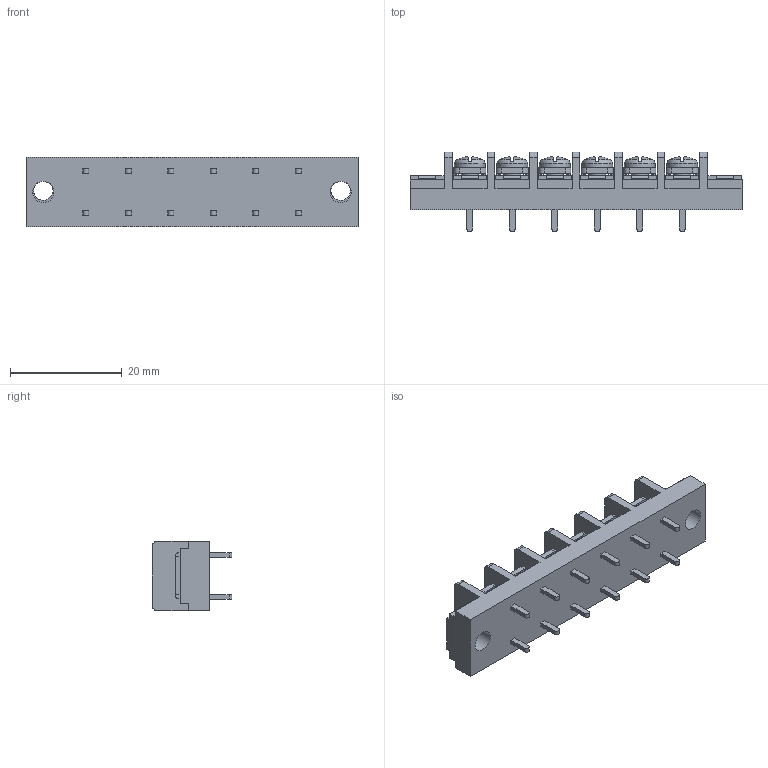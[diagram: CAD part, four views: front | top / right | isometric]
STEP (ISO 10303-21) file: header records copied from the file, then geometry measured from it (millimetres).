
FILE_DESCRIPTION(/* description */ ('Alibre Inc.'),/* implementation_level */ '2;1');
FILE_NAME(/* name */ 'export0',/* time_stamp */ '2015-10-26T18:28:50+09:00',/* author */ (''),/* organization */ (''),/* preprocessor_version */ 'ST-DEVELOPER v14',/* originating_system */ 'Alibre',/* authorisation */ '');
FILE_SCHEMA (('CONFIG_CONTROL_DESIGN'));
Length unit declared in the file: centimetre
Products named in the file (1): ID_1
Bounding box: 59.54 x 14.3 x 12.5 mm (x, y, z)
Volume: 5026.8 mm3; surface area: 4645.2 mm2
Topology: 1 solids, 17 shells, 1042 faces, 2804 edges, 1848 vertices
Faces by surface type: plane 808, bspline 104, cylinder 82, cone 24, torus 12, sphere 12
Full cylindrical faces by diameter (mm): 3 x6, 3.5 x2, 3.8 x2, 5.5 x6
Entity records: 30881 total; most frequent: CARTESIAN_POINT 6775, ORIENTED_EDGE 5520, DIRECTION 3722, EDGE_CURVE 2760, VECTOR 2024, LINE 2024, VERTEX_POINT 1832, AXIS2_PLACEMENT_3D 1215
